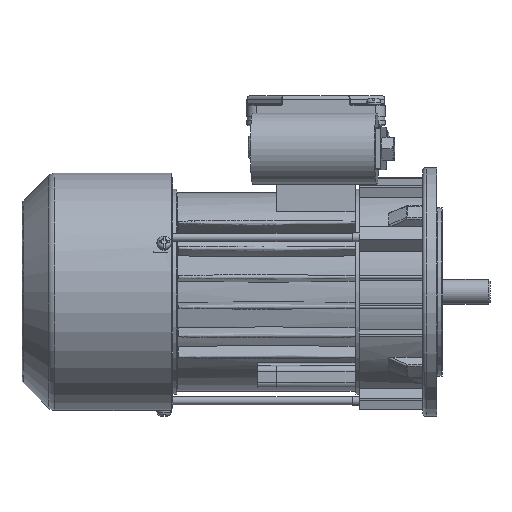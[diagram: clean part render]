
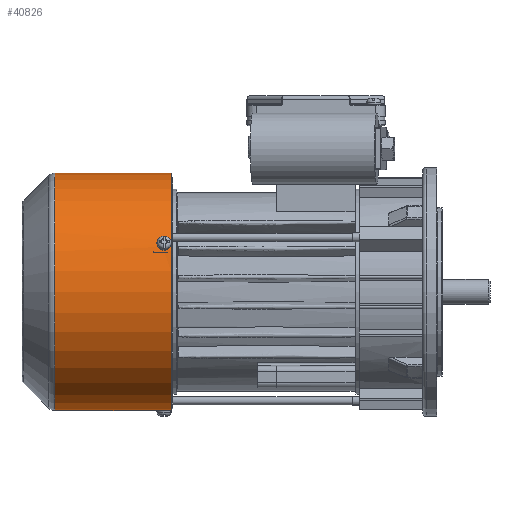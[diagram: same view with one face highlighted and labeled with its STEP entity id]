
A CAD part, left-side view. The second image highlights one B-rep face of the part: STEP entity #40826.
In plain terms, the highlighted cylindrical face has radius 66.8 mm (diameter 133.6 mm), a full revolution.
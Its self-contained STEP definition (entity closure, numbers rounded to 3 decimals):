
#3455=B_SPLINE_CURVE_WITH_KNOTS('',3,(#84127,#84128,#84129,#84130,#84131,
#84132,#84133),.UNSPECIFIED.,.F.,.F.,(4,1,1,1,4),(0.,0.002,
0.004,0.005,0.007),
 .UNSPECIFIED.);
#3456=B_SPLINE_CURVE_WITH_KNOTS('',3,(#84138,#84139,#84140,#84141,#84142,
#84143,#84144),.UNSPECIFIED.,.F.,.F.,(4,1,1,1,4),(0.,0.002,
0.004,0.005,0.007),
 .UNSPECIFIED.);
#3457=B_SPLINE_CURVE_WITH_KNOTS('',3,(#84151,#84152,#84153,#84154,#84155,
#84156,#84157),.UNSPECIFIED.,.F.,.F.,(4,1,1,1,4),(0.,0.002,
0.004,0.005,0.007),
 .UNSPECIFIED.);
#3458=B_SPLINE_CURVE_WITH_KNOTS('',3,(#84162,#84163,#84164,#84165,#84166,
#84167,#84168),.UNSPECIFIED.,.F.,.F.,(4,1,1,1,4),(0.,0.002,
0.004,0.005,0.007),
 .UNSPECIFIED.);
#3459=B_SPLINE_CURVE_WITH_KNOTS('',3,(#84171,#84172,#84173,#84174,#84175,
#84176,#84177,#84178,#84179,#84180,#84181),.UNSPECIFIED.,.T.,.F.,(1,1,1,
1,1,1,1,1,1,1,1,1,1,1,1),(-0.005,-0.004,-0.002,
0.,0.002,0.004,0.005,0.007,
0.009,0.011,0.012,0.014,
0.016,0.018,0.019),.UNSPECIFIED.);
#17629=ORIENTED_EDGE('',*,*,#25183,.T.);
#17630=ORIENTED_EDGE('',*,*,#25184,.T.);
#17631=ORIENTED_EDGE('',*,*,#25185,.T.);
#17632=ORIENTED_EDGE('',*,*,#25186,.F.);
#17633=ORIENTED_EDGE('',*,*,#25187,.T.);
#17634=ORIENTED_EDGE('',*,*,#25188,.T.);
#17635=ORIENTED_EDGE('',*,*,#25189,.T.);
#17636=ORIENTED_EDGE('',*,*,#25190,.T.);
#17637=ORIENTED_EDGE('',*,*,#25191,.T.);
#17638=ORIENTED_EDGE('',*,*,#25192,.F.);
#17639=ORIENTED_EDGE('',*,*,#25193,.T.);
#25183=EDGE_CURVE('',#29696,#29697,#3455,.T.);
#25184=EDGE_CURVE('',#29697,#29698,#32121,.F.);
#25185=EDGE_CURVE('',#29698,#29699,#3456,.T.);
#25186=EDGE_CURVE('',#29696,#29699,#32122,.F.);
#25187=EDGE_CURVE('',#29700,#29700,#32123,.T.);
#25188=EDGE_CURVE('',#29701,#29701,#32124,.T.);
#25189=EDGE_CURVE('',#29702,#29703,#3457,.T.);
#25190=EDGE_CURVE('',#29703,#29704,#32125,.F.);
#25191=EDGE_CURVE('',#29704,#29705,#3458,.T.);
#25192=EDGE_CURVE('',#29702,#29705,#32126,.F.);
#25193=EDGE_CURVE('',#29706,#29706,#3459,.T.);
#29696=VERTEX_POINT('',#84134);
#29697=VERTEX_POINT('',#84135);
#29698=VERTEX_POINT('',#84137);
#29699=VERTEX_POINT('',#84145);
#29700=VERTEX_POINT('',#84148);
#29701=VERTEX_POINT('',#84150);
#29702=VERTEX_POINT('',#84158);
#29703=VERTEX_POINT('',#84159);
#29704=VERTEX_POINT('',#84161);
#29705=VERTEX_POINT('',#84169);
#29706=VERTEX_POINT('',#84182);
#32121=CIRCLE('',#48691,66.8);
#32122=CIRCLE('',#48692,66.8);
#32123=CIRCLE('',#48693,66.8);
#32124=CIRCLE('',#48694,66.8);
#32125=CIRCLE('',#48695,66.8);
#32126=CIRCLE('',#48696,66.8);
#34777=EDGE_LOOP('',(#17629,#17630,#17631,#17632));
#34778=EDGE_LOOP('',(#17633));
#34779=EDGE_LOOP('',(#17634));
#34780=EDGE_LOOP('',(#17635,#17636,#17637,#17638));
#34781=EDGE_LOOP('',(#17639));
#37602=FACE_BOUND('',#34777,.T.);
#37603=FACE_BOUND('',#34778,.T.);
#37604=FACE_BOUND('',#34779,.T.);
#37605=FACE_BOUND('',#34780,.T.);
#37606=FACE_BOUND('',#34781,.T.);
#38723=CYLINDRICAL_SURFACE('',#48690,66.8);
#40826=ADVANCED_FACE('',(#37602,#37603,#37604,#37605,#37606),#38723,.T.);
#48690=AXIS2_PLACEMENT_3D('',#84126,#57645,#57646);
#48691=AXIS2_PLACEMENT_3D('',#84136,#57647,#57648);
#48692=AXIS2_PLACEMENT_3D('',#84146,#57649,#57650);
#48693=AXIS2_PLACEMENT_3D('',#84147,#57651,#57652);
#48694=AXIS2_PLACEMENT_3D('',#84149,#57653,#57654);
#48695=AXIS2_PLACEMENT_3D('',#84160,#57655,#57656);
#48696=AXIS2_PLACEMENT_3D('',#84170,#57657,#57658);
#57645=DIRECTION('',(0.,-1.,0.));
#57646=DIRECTION('',(1.,0.,0.));
#57647=DIRECTION('',(0.,1.,0.));
#57648=DIRECTION('',(0.,0.,1.));
#57649=DIRECTION('',(0.,1.,0.));
#57650=DIRECTION('',(0.,0.,1.));
#57651=DIRECTION('',(0.,-1.,0.));
#57652=DIRECTION('',(1.,0.,0.));
#57653=DIRECTION('',(0.,1.,0.));
#57654=DIRECTION('',(-1.,0.,0.));
#57655=DIRECTION('',(0.,1.,0.));
#57656=DIRECTION('',(0.,0.,1.));
#57657=DIRECTION('',(0.,1.,0.));
#57658=DIRECTION('',(0.,0.,1.));
#84126=CARTESIAN_POINT('',(0.,0.,0.));
#84127=CARTESIAN_POINT('',(-7.827,82.25,-66.34));
#84128=CARTESIAN_POINT('',(-8.418,82.25,-66.27));
#84129=CARTESIAN_POINT('',(-9.572,81.764,-66.115));
#84130=CARTESIAN_POINT('',(-10.3,79.999,-66.));
#84131=CARTESIAN_POINT('',(-9.574,78.238,-66.115));
#84132=CARTESIAN_POINT('',(-8.418,77.75,-66.27));
#84133=CARTESIAN_POINT('',(-7.827,77.75,-66.34));
#84134=CARTESIAN_POINT('',(-7.827,82.25,-66.34));
#84135=CARTESIAN_POINT('',(-7.827,77.75,-66.34));
#84136=CARTESIAN_POINT('',(0.,77.75,0.));
#84137=CARTESIAN_POINT('',(-6.137,77.75,-66.518));
#84138=CARTESIAN_POINT('',(-6.137,77.75,-66.518));
#84139=CARTESIAN_POINT('',(-5.545,77.75,-66.572));
#84140=CARTESIAN_POINT('',(-4.383,78.236,-66.66));
#84141=CARTESIAN_POINT('',(-3.647,80.001,-66.7));
#84142=CARTESIAN_POINT('',(-4.381,81.762,-66.66));
#84143=CARTESIAN_POINT('',(-5.545,82.25,-66.572));
#84144=CARTESIAN_POINT('',(-6.137,82.25,-66.518));
#84145=CARTESIAN_POINT('',(-6.137,82.25,-66.518));
#84146=CARTESIAN_POINT('',(0.,82.25,0.));
#84147=CARTESIAN_POINT('',(0.,84.,0.));
#84148=CARTESIAN_POINT('',(66.8,84.,0.));
#84149=CARTESIAN_POINT('',(0.,18.471,0.));
#84150=CARTESIAN_POINT('',(-66.8,18.471,0.));
#84151=CARTESIAN_POINT('',(-53.538,82.25,39.949));
#84152=CARTESIAN_POINT('',(-53.183,82.25,40.425));
#84153=CARTESIAN_POINT('',(-52.471,81.764,41.347));
#84154=CARTESIAN_POINT('',(-52.008,79.999,41.921));
#84155=CARTESIAN_POINT('',(-52.47,78.238,41.349));
#84156=CARTESIAN_POINT('',(-53.183,77.75,40.425));
#84157=CARTESIAN_POINT('',(-53.538,77.75,39.949));
#84158=CARTESIAN_POINT('',(-53.538,82.25,39.949));
#84159=CARTESIAN_POINT('',(-53.538,77.75,39.949));
#84160=CARTESIAN_POINT('',(0.,77.75,0.));
#84161=CARTESIAN_POINT('',(-54.538,77.75,38.573));
#84162=CARTESIAN_POINT('',(-54.538,77.75,38.573));
#84163=CARTESIAN_POINT('',(-54.881,77.75,38.088));
#84164=CARTESIAN_POINT('',(-55.538,78.236,37.126));
#84165=CARTESIAN_POINT('',(-55.94,80.001,36.508));
#84166=CARTESIAN_POINT('',(-55.539,81.762,37.124));
#84167=CARTESIAN_POINT('',(-54.881,82.25,38.088));
#84168=CARTESIAN_POINT('',(-54.538,82.25,38.573));
#84169=CARTESIAN_POINT('',(-54.538,82.25,38.573));
#84170=CARTESIAN_POINT('',(0.,82.25,0.));
#84171=CARTESIAN_POINT('',(61.724,81.764,25.552));
#84172=CARTESIAN_POINT('',(61.996,80.,24.873));
#84173=CARTESIAN_POINT('',(61.725,78.238,25.551));
#84174=CARTESIAN_POINT('',(61.033,77.507,27.174));
#84175=CARTESIAN_POINT('',(60.291,78.236,28.772));
#84176=CARTESIAN_POINT('',(59.967,80.,29.429));
#84177=CARTESIAN_POINT('',(60.29,81.762,28.774));
#84178=CARTESIAN_POINT('',(61.034,82.493,27.173));
#84179=CARTESIAN_POINT('',(61.724,81.764,25.552));
#84180=CARTESIAN_POINT('',(61.996,80.,24.873));
#84181=CARTESIAN_POINT('',(61.725,78.238,25.551));
#84182=CARTESIAN_POINT('',(61.905,80.,25.099));
